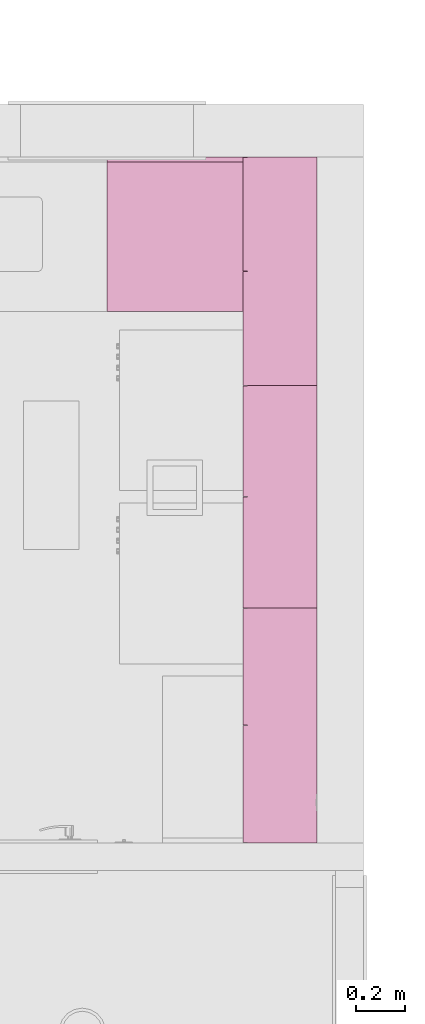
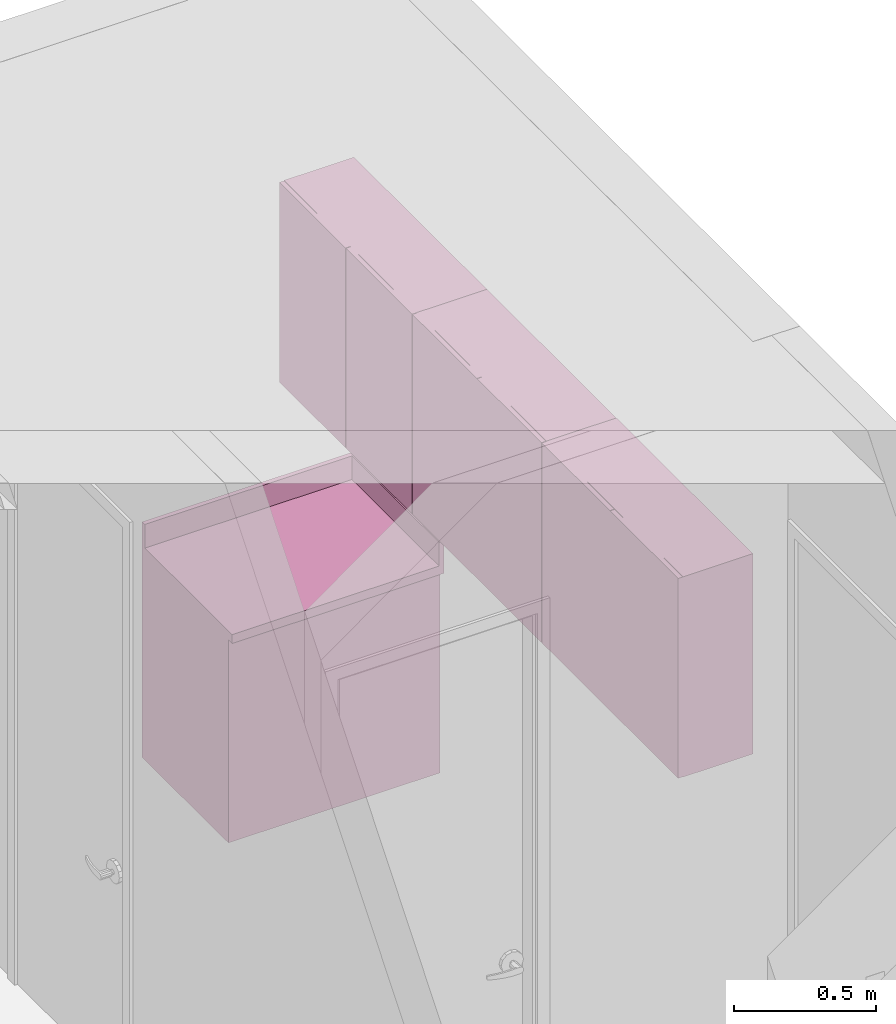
# One storey, part 54 of 103: 4 furnishings.
"""IFC2X3 building model written with IfcOpenShell, lengths in inches."""

import ifcopenshell
import ifcopenshell.guid

model = None  # the IFC model being written
_history = None  # IfcOwnerHistory: only IFC2X3 demands one
_inside = {}  # id of a spatial element -> (the spatial element, [elements in it])
_under = {}  # id of a project, library or spatial element -> (it, [spatial elements below it])
_declared = {}  # id of a project -> (the project, [libraries it declares])
_typed = {}  # id of a type object -> (the type object, [elements of that type])
_made_of = {}  # id of a material, layer set ... -> (it, [elements and type objects made of it])


def new_model(schema):
    """Start an empty IFC model of exactly this schema.

    Asked for "IFC4X3", IfcOpenShell would pick the latest addendum, in which some entities
    have other attributes; the version numbers below select the first issue.
    IFC2X3 requires an IfcOwnerHistory on every rooted entity: one is made here for all.
    """
    global model, _history
    if schema == "IFC4X3":
        model = ifcopenshell.file(schema_version=(4, 3, 0, 0))
    else:
        model = ifcopenshell.file(schema=schema)
    _inside.clear()
    _under.clear()
    _declared.clear()
    _typed.clear()
    _made_of.clear()
    _history = None
    if model.schema == "IFC2X3":
        org = make("IfcOrganization", Name="unknown")
        user = make(
            "IfcPersonAndOrganization",
            ThePerson=make("IfcPerson", FamilyName="unknown"),
            TheOrganization=org,
        )
        app = make(
            "IfcApplication",
            ApplicationDeveloper=org,
            Version="unknown",
            ApplicationFullName="unknown",
            ApplicationIdentifier="unknown",
        )
        _history = make(
            "IfcOwnerHistory",
            OwningUser=user,
            OwningApplication=app,
            ChangeAction="ADDED",
            CreationDate=0,
        )
    return model


def make(cls, **values):
    """One entity of the class cls with the attributes given. An attribute that is None is left unset."""
    return model.create_entity(
        cls, **{name: value for name, value in values.items() if value is not None}
    )


def entity(cls, *values):
    """Any entity or typed value of the class cls, its attributes in the order of the schema. None: left unset."""
    e = model.create_entity(cls)
    for i, value in enumerate(values):
        if value is not None:
            e[i] = value
    return e


def rooted(cls, **values):
    """An entity with a GlobalId (a new one), such as an element, a storey or a relation."""
    return make(cls, GlobalId=ifcopenshell.guid.new(), OwnerHistory=_history, **values)


def si_unit(unit_type, name, prefix=None):
    """IfcSIUnit, for example si_unit("LENGTHUNIT", "METRE", prefix="MILLI")."""
    return make("IfcSIUnit", UnitType=unit_type, Prefix=prefix, Name=name)


def converted_unit(unit_type, name, factor, base, dimensions=None, offset=None):
    """IfcConversionBasedUnit, such as the inch: factor (a typed value) times the base unit."""
    return make(
        "IfcConversionBasedUnit"
        if offset is None
        else "IfcConversionBasedUnitWithOffset",
        ConversionOffset=offset,
        Dimensions=None
        if dimensions is None
        else entity("IfcDimensionalExponents", *dimensions),
        UnitType=unit_type,
        Name=name,
        ConversionFactor=make(
            "IfcMeasureWithUnit", ValueComponent=factor, UnitComponent=base
        ),
    )


def derived_unit(unit_type, elements):
    """IfcDerivedUnit: a product of units, each with its exponent."""
    return make(
        "IfcDerivedUnit",
        Elements=[
            make("IfcDerivedUnitElement", Unit=unit, Exponent=power)
            for unit, power in elements
        ],
        UnitType=unit_type,
    )


def money_unit(currency):
    """IfcMonetaryUnit."""
    return make("IfcMonetaryUnit", Currency=currency)


def assignment(units):
    """IfcUnitAssignment: the units of a project."""
    return None if units is None else make("IfcUnitAssignment", Units=units)


def point(xyz):
    """IfcCartesianPoint."""
    return None if xyz is None else make("IfcCartesianPoint", Coordinates=xyz)


def direction(xyz):
    """IfcDirection."""
    return None if xyz is None else make("IfcDirection", DirectionRatios=xyz)


def frame(location, z_axis=None, x_axis=None):
    """IfcAxis2Placement3D, a coordinate frame: its origin and axes. An axis left out is left unset."""
    return make(
        "IfcAxis2Placement3D",
        Location=point(location),
        Axis=direction(z_axis),
        RefDirection=direction(x_axis),
    )


def origin_with_axes():
    """The frame at (0, 0, 0) with the z axis (0, 0, 1) and the x axis (1, 0, 0) written out."""
    return frame((0.0, 0.0, 0.0), z_axis=(0.0, 0.0, 1.0), x_axis=(1.0, 0.0, 0.0))


def place(relative_to, where):
    """IfcLocalPlacement: puts the frame where relative to a parent placement (None: the world)."""
    return make(
        "IfcLocalPlacement", PlacementRelTo=relative_to, RelativePlacement=where
    )


def context(
    kind, dimensions, precision=None, world=None, true_north=None, identifier=None
):
    """IfcGeometricRepresentationContext, for example the 3D "Model" context."""
    return make(
        "IfcGeometricRepresentationContext",
        ContextIdentifier=identifier,
        ContextType=kind,
        CoordinateSpaceDimension=dimensions,
        Precision=precision,
        WorldCoordinateSystem=world,
        TrueNorth=true_north,
    )


def subcontext(parent, identifier, kind, view, scale=None):
    """IfcGeometricRepresentationSubContext, for example "Body" below "Model"."""
    return make(
        "IfcGeometricRepresentationSubContext",
        ContextIdentifier=identifier,
        ContextType=kind,
        ParentContext=parent,
        TargetScale=scale,
        TargetView=view,
    )


def project(units=None, contexts=None):
    """IfcProject with its units and contexts."""
    return rooted(
        "IfcProject",
        Name="project",
        RepresentationContexts=contexts,
        UnitsInContext=assignment(units),
    )


def spatial(cls, under=None, at=None, **own):
    """A site, building, storey or space (cls), placed at a placement, below another one or the project."""
    s = rooted(cls, ObjectPlacement=at, **own)
    if under is not None:
        _under.setdefault(under.id(), (under, []))[1].append(s)
    return s


def faces_of(points, faces, orient=None, outer=None):
    """IfcFace entities. A face is a list of loops; a loop is a list of indices into points, from 0.

    orient and outer hold one flag for each loop. By default every Orientation is true, the
    first loop of a face is its IfcFaceOuterBound and the others are IfcFaceBound.
    """
    made = []
    for i, loops in enumerate(faces):
        bounds = []
        for j, loop in enumerate(loops):
            is_outer = j == 0 if outer is None else outer[i][j]
            bounds.append(
                make(
                    "IfcFaceOuterBound" if is_outer else "IfcFaceBound",
                    Bound=make("IfcPolyLoop", Polygon=[points[k] for k in loop]),
                    Orientation=True if orient is None else orient[i][j],
                )
            )
        made.append(make("IfcFace", Bounds=bounds))
    return made


def faceted_brep(points, faces, orient=None, outer=None, voids=None):
    """IfcFacetedBrep: a solid bounded by flat faces; with voids (closed shells), ...WithVoids."""
    shared = [point(p) for p in points]
    hull = make("IfcClosedShell", CfsFaces=faces_of(shared, faces, orient, outer))
    if voids is None:
        return make("IfcFacetedBrep", Outer=hull)
    return make(
        "IfcFacetedBrepWithVoids",
        Outer=hull,
        Voids=[
            make(cls, CfsFaces=faces_of(shared, fs, o, b)) for cls, fs, o, b in voids
        ],
    )


def shape(context_of_items, identifier, shape_type, items):
    """IfcShapeRepresentation: the items that make up one representation, for example the "Body"."""
    return make(
        "IfcShapeRepresentation",
        ContextOfItems=context_of_items,
        RepresentationIdentifier=identifier,
        RepresentationType=shape_type,
        Items=items,
    )


def made_of(thing, what):
    """Note that an element or type object is made of a material, layer set ...; save() writes the relation."""
    if what is not None:
        _made_of.setdefault(what.id(), (what, []))[1].append(thing)
    return thing


def type_object(cls, material=None, **own):
    """A type object (cls), such as IfcWallType, which elements share."""
    return made_of(rooted(cls, **own), material)


def element(
    cls,
    number,
    at=None,
    inside=None,
    cuts=None,
    type_object=None,
    material=None,
    context=None,
    identifier="Body",
    shape_type=None,
    held_by="IfcProductDefinitionShape",
    body=None,
    shapes=None,
    **own,
):
    """One element of the class cls, such as IfcWall. Its Tag is "e" and its number.

    at: its placement. inside: the storey or other place that contains it. cuts: it is an
    opening in that element (IfcRelVoidsElement). A single representation is given by context,
    identifier, shape_type and body (its items); several are given by shapes. held_by: the class
    of the entity that holds the representations. save() writes the other relations.
    """
    e = rooted(cls, Tag="e%d" % number, ObjectPlacement=at, **own)
    if body is not None:
        shapes = [shape(context, identifier, shape_type, body)]
    if shapes is not None:
        e.Representation = make(held_by, Representations=shapes)
    if inside is not None:
        _inside.setdefault(inside.id(), (inside, []))[1].append(e)
    if cuts is not None:
        rooted(
            "IfcRelVoidsElement", RelatingBuildingElement=cuts, RelatedOpeningElement=e
        )
    if type_object is not None:
        _typed.setdefault(type_object.id(), (type_object, []))[1].append(e)
    return made_of(e, material)


def aggregate(whole, parts):
    """IfcRelAggregates: a whole, such as a stair, and the parts it consists of."""
    return rooted("IfcRelAggregates", RelatingObject=whole, RelatedObjects=parts)


def save(model, path):
    """Write the relations noted so far, then the file.

    IfcRelAggregates (storeys below a building ...), IfcRelContainedInSpatialStructure (elements
    in a storey), IfcRelDefinesByType, IfcRelAssociatesMaterial and IfcRelDeclares: one each for
    every whole, place, type object, material and project.
    """
    for whole, parts in _under.values():
        aggregate(whole, parts)
    for where, things in _inside.values():
        rooted(
            "IfcRelContainedInSpatialStructure",
            RelatedElements=things,
            RelatingStructure=where,
        )
    for kind, things in _typed.values():
        rooted("IfcRelDefinesByType", RelatedObjects=things, RelatingType=kind)
    for what, things in _made_of.values():
        rooted("IfcRelAssociatesMaterial", RelatedObjects=things, RelatingMaterial=what)
    for by, libraries in _declared.values():
        rooted("IfcRelDeclares", RelatingContext=by, RelatedDefinitions=libraries)
    model.write(path)


model = new_model("IFC2X3")

# Units and contexts
model_context = context("Model", 3, precision=0.00039370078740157, world=origin_with_axes(), true_north=direction((0.0, 1.0)))
plan_context = context("Plan", 3, precision=0.00039370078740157, world=origin_with_axes(), true_north=direction((0.0, 1.0)))
body_context = subcontext(model_context, "Body", "Model", "MODEL_VIEW")
ifc_project = project(units=[converted_unit("LENGTHUNIT", "INCH", entity("IfcPositiveLengthMeasure", 0.0254), si_unit("LENGTHUNIT", "METRE"), dimensions=[1, 0, 0, 0, 0, 0, 0]), converted_unit("AREAUNIT", "SQUARE_FOOT", entity("IfcPositiveLengthMeasure", 0.09290304), si_unit("AREAUNIT", "SQUARE_METRE"), dimensions=[2, 0, 0, 0, 0, 0, 0]), si_unit("PLANEANGLEUNIT", "RADIAN"), si_unit("SOLIDANGLEUNIT", "STERADIAN"), money_unit("USD"), converted_unit("TIMEUNIT", "Year", entity("IfcTimeMeasure", 31557600.0), si_unit("TIMEUNIT", "SECOND"), dimensions=[0, 0, 1, 0, 0, 0, 0]), si_unit("MASSUNIT", "GRAM", prefix="KILO"), si_unit("THERMODYNAMICTEMPERATUREUNIT", "DEGREE_CELSIUS"), si_unit("LUMINOUSINTENSITYUNIT", "LUMEN"), si_unit("ENERGYUNIT", "JOULE", prefix="MEGA"), derived_unit("SPECIFICHEATCAPACITYUNIT", [(si_unit("ENERGYUNIT", "JOULE"), 1), (si_unit("MASSUNIT", "GRAM", prefix="KILO"), -1), (si_unit("THERMODYNAMICTEMPERATUREUNIT", "KELVIN"), -1)])], contexts=[model_context, plan_context])

# Site, building, storey
site_placement = place(None, origin_with_axes())
site = spatial("IfcSite", under=ifc_project, at=site_placement, Name="Site", CompositionType="ELEMENT")
building_placement = place(site_placement, origin_with_axes())
building = spatial("IfcBuilding", under=site, at=building_placement, Name="Building", CompositionType="ELEMENT")
storey_placement = place(building_placement, frame((0.0, 0.0, 127.9999999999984), z_axis=(0.0, 0.0, 1.0), x_axis=(1.0, 0.0, 0.0)))
storey = spatial("IfcBuildingStorey", under=building, at=storey_placement, Name="Second Floor", CompositionType="ELEMENT", Elevation=128.0)

# Furnishings
furniture_type_1 = type_object("IfcFurnitureType", Name="Base Cabinet Block", AssemblyPlace="NOTDEFINED")
furnishing_1_placement = place(storey_placement, frame((203.0000135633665, 568.0000000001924, 0.0), z_axis=(0.0, 0.0, 1.0), x_axis=(1.0, 0.0, 0.0)))
element("IfcFurnishingElement", 1, at=furnishing_1_placement, inside=storey, type_object=furniture_type_1, Name="FU - 007", context=body_context, shape_type="Brep", body=[
    faceted_brep([(0.0, -24.9999999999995, 34.49999999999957), (34.00000000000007, -24.9999999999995, 34.49999999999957), (34.00000000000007, -24.9999999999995, 35.99999999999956), (0.0, -24.9999999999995, 35.99999999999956), (0.0, 0.0, 34.49999999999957), (34.00000000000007, 0.0, 34.49999999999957), (34.00000000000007, 0.0, 35.99999999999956), (0.0, 0.0, 35.99999999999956)], [[[0, 1, 2, 3]], [[0, 4, 5, 1]], [[1, 5, 6, 2]], [[3, 2, 6, 7]], [[4, 0, 3, 7]], [[5, 4, 7, 6]]]),
    faceted_brep([(34.00000000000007, -24.9999999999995, 35.99999999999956), (33.25000000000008, -24.9999999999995, 35.99999999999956), (33.25000000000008, -0.7499999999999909, 35.99999999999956), (34.00000000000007, 0.0, 35.99999999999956), (34.00000000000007, -24.9999999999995, 39.99999999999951), (33.25000000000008, -24.9999999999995, 39.99999999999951), (33.25000000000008, -0.7499999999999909, 39.99999999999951), (34.00000000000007, 0.0, 39.99999999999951)], [[[0, 1, 2, 3]], [[0, 4, 5, 1]], [[1, 5, 6, 2]], [[3, 2, 6, 7]], [[4, 0, 3, 7]], [[5, 4, 7, 6]]]),
    faceted_brep([(34.00000000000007, 0.0, 35.99999999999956), (33.25000000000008, -0.7499999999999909, 35.99999999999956), (0.0, -0.7499999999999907, 35.99999999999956), (0.0, 0.0, 35.99999999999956), (34.00000000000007, 0.0, 39.99999999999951), (33.25000000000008, -0.7499999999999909, 39.99999999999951), (0.0, -0.7499999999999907, 39.99999999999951), (0.0, 0.0, 39.99999999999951)], [[[0, 1, 2, 3]], [[0, 4, 5, 1]], [[1, 5, 6, 2]], [[3, 2, 6, 7]], [[4, 0, 3, 7]], [[5, 4, 7, 6]]]),
    faceted_brep([(0.039370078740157, -23.24999999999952, 0.039370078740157), (33.96062992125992, -23.24999999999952, 0.039370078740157), (33.96062992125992, -23.99999999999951, 0.03937007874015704), (0.039370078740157, -23.99999999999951, 0.03937007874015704), (0.039370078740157, -23.24999999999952, 34.46062992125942), (33.96062992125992, -23.24999999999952, 34.46062992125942), (33.96062992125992, -23.99999999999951, 34.46062992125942), (0.039370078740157, -23.99999999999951, 34.46062992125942)], [[[0, 1, 2, 3]], [[0, 4, 5, 1]], [[1, 5, 6, 2]], [[3, 2, 6, 7]], [[4, 0, 3, 7]], [[5, 4, 7, 6]]]),
    faceted_brep([(0.7499999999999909, -23.24999999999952, 0.0), (33.25000000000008, -23.24999999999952, 0.0), (33.25000000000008, -23.24999999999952, 0.7499999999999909), (0.7499999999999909, -23.24999999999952, 0.7499999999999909), (0.7499999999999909, 0.0, 0.0), (33.25000000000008, 0.0, 0.0), (33.25000000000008, 0.0, 0.7499999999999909), (0.7499999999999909, 0.0, 0.7499999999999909)], [[[0, 1, 2, 3]], [[0, 4, 5, 1]], [[1, 5, 6, 2]], [[3, 2, 6, 7]], [[4, 0, 3, 7]], [[5, 4, 7, 6]]]),
    faceted_brep([(0.7499999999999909, -23.24999999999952, 33.74999999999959), (0.7499999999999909, -20.8877952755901, 33.74999999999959), (33.25000000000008, -20.8877952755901, 33.74999999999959), (33.25000000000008, -23.24999999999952, 33.74999999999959), (0.7499999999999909, -23.24999999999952, 34.49999999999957), (0.7499999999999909, -20.8877952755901, 34.49999999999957), (33.25000000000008, -20.8877952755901, 34.49999999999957), (33.25000000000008, -23.24999999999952, 34.49999999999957)], [[[0, 1, 2, 3]], [[0, 4, 5, 1]], [[1, 5, 6, 2]], [[3, 2, 6, 7]], [[4, 0, 3, 7]], [[5, 4, 7, 6]]]),
    faceted_brep([(33.25000000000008, 0.0, 33.74999999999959), (33.25000000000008, -2.36220472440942, 33.74999999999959), (0.7499999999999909, -2.36220472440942, 33.74999999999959), (0.7499999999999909, 0.0, 33.74999999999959), (33.25000000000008, 0.0, 34.49999999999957), (33.25000000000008, -2.36220472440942, 34.49999999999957), (0.7499999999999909, -2.36220472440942, 34.49999999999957), (0.7499999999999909, 0.0, 34.49999999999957)], [[[0, 1, 2, 3]], [[0, 4, 5, 1]], [[1, 5, 6, 2]], [[3, 2, 6, 7]], [[4, 0, 3, 7]], [[5, 4, 7, 6]]]),
    faceted_brep([(0.0, 0.0, 0.0), (0.0, -23.24999999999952, 0.0), (0.0, -23.24999999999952, 34.49999999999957), (0.0, 0.0, 34.49999999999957), (0.7499999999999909, 0.0, 0.0), (0.7499999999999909, -23.24999999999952, 0.0), (0.7499999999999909, -23.24999999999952, 34.49999999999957), (0.7499999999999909, 0.0, 34.49999999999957)], [[[0, 1, 2, 3]], [[0, 4, 5, 1]], [[1, 5, 6, 2]], [[3, 2, 6, 7]], [[4, 0, 3, 7]], [[5, 4, 7, 6]]]),
    faceted_brep([(34.00000000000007, -23.24999999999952, 0.0), (34.00000000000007, 0.0, 0.0), (34.00000000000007, 0.0, 34.49999999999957), (34.00000000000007, -23.24999999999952, 34.49999999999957), (33.25000000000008, -23.24999999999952, 0.0), (33.25000000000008, 0.0, 0.0), (33.25000000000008, 0.0, 34.49999999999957), (33.25000000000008, -23.24999999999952, 34.49999999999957)], [[[0, 1, 2, 3]], [[0, 4, 5, 1]], [[1, 5, 6, 2]], [[3, 2, 6, 7]], [[4, 0, 3, 7]], [[5, 4, 7, 6]]]),
    faceted_brep([(33.25000000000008, -0.3749999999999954, 0.7499999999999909), (0.7499999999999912, -0.3749999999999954, 0.7499999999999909), (0.7499999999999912, -0.3749999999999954, 33.74999999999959), (33.25000000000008, -0.3749999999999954, 33.74999999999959), (33.25000000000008, -0.7499999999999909, 0.7499999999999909), (0.7499999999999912, -0.7499999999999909, 0.7499999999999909), (0.7499999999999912, -0.7499999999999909, 33.74999999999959), (33.25000000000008, -0.7499999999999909, 33.74999999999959)], [[[0, 1, 2, 3]], [[0, 4, 5, 1]], [[1, 5, 6, 2]], [[3, 2, 6, 7]], [[4, 0, 3, 7]], [[5, 4, 7, 6]]]),
])
furniture_type_2 = type_object("IfcFurnitureType", Name="Wall Cabinet Block", AssemblyPlace="NOTDEFINED")
furnishing_2_placement = place(storey_placement, frame((236.9999999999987, 456.9999999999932, -3.999999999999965), z_axis=(0.0, 0.0, 1.0), x_axis=(0.0, -1.0, 0.0)))
element("IfcFurnishingElement", 2, at=furnishing_2_placement, inside=storey, type_object=furniture_type_2, Name="FU - 008", context=body_context, shape_type="Brep", body=[
    faceted_brep([(-0.7499999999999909, -11.24999999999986, 76.62499999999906), (-0.7499999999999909, -11.24999999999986, 77.37499999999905), (-37.24999999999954, -11.24999999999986, 77.37499999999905), (-37.24999999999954, -11.24999999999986, 76.62499999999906), (-0.7499999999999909, -0.7499999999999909, 76.62499999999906), (-0.7499999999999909, -0.7499999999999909, 77.37499999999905), (-37.24999999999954, -0.7499999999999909, 77.37499999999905), (-37.24999999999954, -0.7499999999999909, 76.62499999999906)], [[[0, 1, 2, 3]], [[4, 5, 1, 0]], [[1, 5, 6, 2]], [[3, 2, 6, 7]], [[0, 3, 7, 4]], [[7, 6, 5, 4]]]),
    faceted_brep([(-0.039370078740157, -11.24999999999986, 60.03937007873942), (-0.039370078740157, -11.99999999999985, 60.03937007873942), (-18.96062992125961, -11.99999999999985, 60.03937007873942), (-18.96062992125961, -11.24999999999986, 60.03937007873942), (-0.039370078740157, -11.24999999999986, 93.96062992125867), (-0.039370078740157, -11.99999999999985, 93.96062992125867), (-18.96062992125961, -11.99999999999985, 93.96062992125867), (-18.96062992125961, -11.24999999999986, 93.96062992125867)], [[[0, 1, 2, 3]], [[4, 5, 1, 0]], [[1, 5, 6, 2]], [[3, 2, 6, 7]], [[0, 3, 7, 4]], [[7, 6, 5, 4]]]),
    faceted_brep([(-37.96062992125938, -11.24999999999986, 60.03937007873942), (-19.03937007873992, -11.24999999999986, 60.03937007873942), (-19.03937007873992, -11.99999999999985, 60.03937007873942), (-37.96062992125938, -11.99999999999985, 60.03937007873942), (-37.96062992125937, -11.24999999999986, 93.96062992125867), (-19.03937007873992, -11.24999999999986, 93.96062992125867), (-19.03937007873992, -11.99999999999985, 93.96062992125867), (-37.96062992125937, -11.99999999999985, 93.96062992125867)], [[[0, 1, 2, 3]], [[0, 4, 5, 1]], [[1, 5, 6, 2]], [[3, 2, 6, 7]], [[4, 0, 3, 7]], [[5, 4, 7, 6]]]),
    faceted_brep([(-0.7499999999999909, -11.24999999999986, 59.99999999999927), (-0.7499999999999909, -11.24999999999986, 60.74999999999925), (-37.24999999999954, -11.24999999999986, 60.74999999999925), (-37.24999999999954, -11.24999999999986, 59.99999999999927), (-0.7499999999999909, 0.0, 59.99999999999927), (-0.7499999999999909, 0.0, 60.74999999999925), (-37.24999999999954, 0.0, 60.74999999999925), (-37.24999999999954, 0.0, 59.99999999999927)], [[[0, 1, 2, 3]], [[4, 5, 1, 0]], [[1, 5, 6, 2]], [[3, 2, 6, 7]], [[0, 3, 7, 4]], [[7, 6, 5, 4]]]),
    faceted_brep([(-0.7499999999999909, -11.24999999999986, 93.24999999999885), (-0.7499999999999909, -11.24999999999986, 93.99999999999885), (-37.24999999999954, -11.24999999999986, 93.99999999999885), (-37.24999999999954, -11.24999999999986, 93.24999999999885), (-0.7499999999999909, 0.0, 93.24999999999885), (-0.7499999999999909, 0.0, 93.99999999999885), (-37.24999999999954, 0.0, 93.99999999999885), (-37.24999999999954, 0.0, 93.24999999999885)], [[[0, 1, 2, 3]], [[4, 5, 1, 0]], [[1, 5, 6, 2]], [[3, 2, 6, 7]], [[0, 3, 7, 4]], [[7, 6, 5, 4]]]),
    faceted_brep([(0.0, 0.0, 59.99999999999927), (0.0, 0.0, 93.99999999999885), (0.0, -11.24999999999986, 93.99999999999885), (0.0, -11.24999999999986, 59.99999999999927), (-0.7499999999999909, 0.0, 59.99999999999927), (-0.7499999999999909, 0.0, 93.99999999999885), (-0.7499999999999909, -11.24999999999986, 93.99999999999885), (-0.7499999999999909, -11.24999999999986, 59.99999999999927)], [[[0, 1, 2, 3]], [[4, 5, 1, 0]], [[1, 5, 6, 2]], [[3, 2, 6, 7]], [[0, 3, 7, 4]], [[7, 6, 5, 4]]]),
    faceted_brep([(-37.99999999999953, -11.24999999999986, 59.99999999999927), (-37.99999999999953, -11.24999999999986, 93.99999999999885), (-37.99999999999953, 0.0, 93.99999999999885), (-37.99999999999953, 0.0, 59.99999999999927), (-37.24999999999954, -11.24999999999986, 59.99999999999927), (-37.24999999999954, -11.24999999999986, 93.99999999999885), (-37.24999999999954, 0.0, 93.99999999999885), (-37.24999999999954, 0.0, 59.99999999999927)], [[[0, 1, 2, 3]], [[4, 5, 1, 0]], [[1, 5, 6, 2]], [[3, 2, 6, 7]], [[0, 3, 7, 4]], [[7, 6, 5, 4]]]),
    faceted_brep([(-37.24999999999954, -0.3749999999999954, 60.74999999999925), (-37.24999999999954, -0.3749999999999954, 93.24999999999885), (-0.7499999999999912, -0.3749999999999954, 93.24999999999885), (-0.7499999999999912, -0.3749999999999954, 60.74999999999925), (-37.24999999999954, -0.7499999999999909, 60.74999999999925), (-37.24999999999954, -0.7499999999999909, 93.24999999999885), (-0.7499999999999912, -0.7499999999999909, 93.24999999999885), (-0.7499999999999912, -0.7499999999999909, 60.74999999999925)], [[[0, 1, 2, 3]], [[4, 5, 1, 0]], [[1, 5, 6, 2]], [[3, 2, 6, 7]], [[0, 3, 7, 4]], [[7, 6, 5, 4]]]),
])
furnishing_3_placement = place(storey_placement, frame((236.9999999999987, 530.9999999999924, -3.999999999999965), z_axis=(0.0, 0.0, 1.0), x_axis=(0.0, -1.0, 0.0)))
element("IfcFurnishingElement", 3, at=furnishing_3_placement, inside=storey, type_object=furniture_type_2, Name="FU - 008", context=body_context, shape_type="Brep", body=[
    faceted_brep([(-0.7499999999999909, -11.24999999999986, 76.62499999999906), (-0.7499999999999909, -11.24999999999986, 77.37499999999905), (-36.25000000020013, -11.24999999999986, 77.37499999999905), (-36.25000000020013, -11.24999999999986, 76.62499999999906), (-0.7499999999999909, -0.7499999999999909, 76.62499999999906), (-0.7499999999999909, -0.7499999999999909, 77.37499999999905), (-36.25000000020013, -0.7499999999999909, 77.37499999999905), (-36.25000000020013, -0.7499999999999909, 76.62499999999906)], [[[0, 1, 2, 3]], [[4, 5, 1, 0]], [[1, 5, 6, 2]], [[3, 2, 6, 7]], [[0, 3, 7, 4]], [[7, 6, 5, 4]]]),
    faceted_brep([(-0.039370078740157, -11.24999999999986, 60.03937007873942), (-0.039370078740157, -11.99999999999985, 60.03937007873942), (-18.4606299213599, -11.99999999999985, 60.03937007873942), (-18.4606299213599, -11.24999999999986, 60.03937007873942), (-0.039370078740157, -11.24999999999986, 93.96062992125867), (-0.039370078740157, -11.99999999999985, 93.96062992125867), (-18.4606299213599, -11.99999999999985, 93.96062992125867), (-18.4606299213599, -11.24999999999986, 93.96062992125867)], [[[0, 1, 2, 3]], [[4, 5, 1, 0]], [[1, 5, 6, 2]], [[3, 2, 6, 7]], [[0, 3, 7, 4]], [[7, 6, 5, 4]]]),
    faceted_brep([(-36.96062992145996, -11.24999999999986, 60.03937007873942), (-18.53937007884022, -11.24999999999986, 60.03937007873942), (-18.53937007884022, -11.99999999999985, 60.03937007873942), (-36.96062992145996, -11.99999999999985, 60.03937007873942), (-36.96062992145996, -11.24999999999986, 93.96062992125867), (-18.53937007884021, -11.24999999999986, 93.96062992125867), (-18.53937007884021, -11.99999999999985, 93.96062992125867), (-36.96062992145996, -11.99999999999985, 93.96062992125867)], [[[0, 1, 2, 3]], [[0, 4, 5, 1]], [[1, 5, 6, 2]], [[3, 2, 6, 7]], [[4, 0, 3, 7]], [[5, 4, 7, 6]]]),
    faceted_brep([(-0.7499999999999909, -11.24999999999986, 59.99999999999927), (-0.7499999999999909, -11.24999999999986, 60.74999999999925), (-36.25000000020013, -11.24999999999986, 60.74999999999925), (-36.25000000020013, -11.24999999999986, 59.99999999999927), (-0.7499999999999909, 0.0, 59.99999999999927), (-0.7499999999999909, 0.0, 60.74999999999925), (-36.25000000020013, 0.0, 60.74999999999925), (-36.25000000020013, 0.0, 59.99999999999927)], [[[0, 1, 2, 3]], [[4, 5, 1, 0]], [[1, 5, 6, 2]], [[3, 2, 6, 7]], [[0, 3, 7, 4]], [[7, 6, 5, 4]]]),
    faceted_brep([(-0.7499999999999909, -11.24999999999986, 93.24999999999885), (-0.7499999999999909, -11.24999999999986, 93.99999999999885), (-36.25000000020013, -11.24999999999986, 93.99999999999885), (-36.25000000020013, -11.24999999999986, 93.24999999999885), (-0.7499999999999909, 0.0, 93.24999999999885), (-0.7499999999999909, 0.0, 93.99999999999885), (-36.25000000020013, 0.0, 93.99999999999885), (-36.25000000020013, 0.0, 93.24999999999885)], [[[0, 1, 2, 3]], [[4, 5, 1, 0]], [[1, 5, 6, 2]], [[3, 2, 6, 7]], [[0, 3, 7, 4]], [[7, 6, 5, 4]]]),
    faceted_brep([(0.0, 0.0, 59.99999999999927), (0.0, 0.0, 93.99999999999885), (0.0, -11.24999999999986, 93.99999999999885), (0.0, -11.24999999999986, 59.99999999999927), (-0.7499999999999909, 0.0, 59.99999999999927), (-0.7499999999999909, 0.0, 93.99999999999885), (-0.7499999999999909, -11.24999999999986, 93.99999999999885), (-0.7499999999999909, -11.24999999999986, 59.99999999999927)], [[[0, 1, 2, 3]], [[4, 5, 1, 0]], [[1, 5, 6, 2]], [[3, 2, 6, 7]], [[0, 3, 7, 4]], [[7, 6, 5, 4]]]),
    faceted_brep([(-37.00000000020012, -11.24999999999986, 59.99999999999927), (-37.00000000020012, -11.24999999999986, 93.99999999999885), (-37.00000000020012, 0.0, 93.99999999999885), (-37.00000000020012, 0.0, 59.99999999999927), (-36.25000000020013, -11.24999999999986, 59.99999999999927), (-36.25000000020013, -11.24999999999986, 93.99999999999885), (-36.25000000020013, 0.0, 93.99999999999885), (-36.25000000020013, 0.0, 59.99999999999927)], [[[0, 1, 2, 3]], [[4, 5, 1, 0]], [[1, 5, 6, 2]], [[3, 2, 6, 7]], [[0, 3, 7, 4]], [[7, 6, 5, 4]]]),
    faceted_brep([(-36.25000000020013, -0.3749999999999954, 60.74999999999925), (-36.25000000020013, -0.3749999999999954, 93.24999999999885), (-0.7499999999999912, -0.3749999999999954, 93.24999999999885), (-0.7499999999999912, -0.3749999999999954, 60.74999999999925), (-36.25000000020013, -0.7499999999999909, 60.74999999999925), (-36.25000000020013, -0.7499999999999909, 93.24999999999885), (-0.7499999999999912, -0.7499999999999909, 93.24999999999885), (-0.7499999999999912, -0.7499999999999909, 60.74999999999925)], [[[0, 1, 2, 3]], [[4, 5, 1, 0]], [[1, 5, 6, 2]], [[3, 2, 6, 7]], [[0, 3, 7, 4]], [[7, 6, 5, 4]]]),
])
furnishing_4_placement = place(storey_placement, frame((236.9999999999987, 494.9999999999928, -3.999999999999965), z_axis=(0.0, 0.0, 1.0), x_axis=(0.0, -1.0, 0.0)))
element("IfcFurnishingElement", 4, at=furnishing_4_placement, inside=storey, type_object=furniture_type_2, Name="FU - 008", context=body_context, shape_type="Brep", body=[
    faceted_brep([(-0.7499999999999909, -11.24999999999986, 76.62499999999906), (-0.7499999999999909, -11.24999999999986, 77.37499999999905), (-35.24999999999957, -11.24999999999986, 77.37499999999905), (-35.24999999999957, -11.24999999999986, 76.62499999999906), (-0.7499999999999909, -0.7499999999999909, 76.62499999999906), (-0.7499999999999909, -0.7499999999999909, 77.37499999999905), (-35.24999999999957, -0.7499999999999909, 77.37499999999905), (-35.24999999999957, -0.7499999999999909, 76.62499999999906)], [[[0, 1, 2, 3]], [[4, 5, 1, 0]], [[1, 5, 6, 2]], [[3, 2, 6, 7]], [[0, 3, 7, 4]], [[7, 6, 5, 4]]]),
    faceted_brep([(-0.039370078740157, -11.24999999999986, 60.03937007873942), (-0.039370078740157, -11.99999999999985, 60.03937007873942), (-17.96062992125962, -11.99999999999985, 60.03937007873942), (-17.96062992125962, -11.24999999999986, 60.03937007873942), (-0.039370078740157, -11.24999999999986, 93.96062992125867), (-0.039370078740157, -11.99999999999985, 93.96062992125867), (-17.96062992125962, -11.99999999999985, 93.96062992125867), (-17.96062992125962, -11.24999999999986, 93.96062992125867)], [[[0, 1, 2, 3]], [[4, 5, 1, 0]], [[1, 5, 6, 2]], [[3, 2, 6, 7]], [[0, 3, 7, 4]], [[7, 6, 5, 4]]]),
    faceted_brep([(-35.9606299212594, -11.24999999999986, 60.03937007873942), (-18.03937007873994, -11.24999999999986, 60.03937007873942), (-18.03937007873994, -11.99999999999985, 60.03937007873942), (-35.9606299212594, -11.99999999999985, 60.03937007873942), (-35.9606299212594, -11.24999999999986, 93.96062992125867), (-18.03937007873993, -11.24999999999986, 93.96062992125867), (-18.03937007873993, -11.99999999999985, 93.96062992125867), (-35.9606299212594, -11.99999999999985, 93.96062992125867)], [[[0, 1, 2, 3]], [[0, 4, 5, 1]], [[1, 5, 6, 2]], [[3, 2, 6, 7]], [[4, 0, 3, 7]], [[5, 4, 7, 6]]]),
    faceted_brep([(-0.7499999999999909, -11.24999999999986, 59.99999999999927), (-0.7499999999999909, -11.24999999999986, 60.74999999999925), (-35.24999999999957, -11.24999999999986, 60.74999999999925), (-35.24999999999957, -11.24999999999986, 59.99999999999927), (-0.7499999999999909, 0.0, 59.99999999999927), (-0.7499999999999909, 0.0, 60.74999999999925), (-35.24999999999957, 0.0, 60.74999999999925), (-35.24999999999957, 0.0, 59.99999999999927)], [[[0, 1, 2, 3]], [[4, 5, 1, 0]], [[1, 5, 6, 2]], [[3, 2, 6, 7]], [[0, 3, 7, 4]], [[7, 6, 5, 4]]]),
    faceted_brep([(-0.7499999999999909, -11.24999999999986, 93.24999999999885), (-0.7499999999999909, -11.24999999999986, 93.99999999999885), (-35.24999999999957, -11.24999999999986, 93.99999999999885), (-35.24999999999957, -11.24999999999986, 93.24999999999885), (-0.7499999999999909, 0.0, 93.24999999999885), (-0.7499999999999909, 0.0, 93.99999999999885), (-35.24999999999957, 0.0, 93.99999999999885), (-35.24999999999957, 0.0, 93.24999999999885)], [[[0, 1, 2, 3]], [[4, 5, 1, 0]], [[1, 5, 6, 2]], [[3, 2, 6, 7]], [[0, 3, 7, 4]], [[7, 6, 5, 4]]]),
    faceted_brep([(0.0, 0.0, 59.99999999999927), (0.0, 0.0, 93.99999999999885), (0.0, -11.24999999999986, 93.99999999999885), (0.0, -11.24999999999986, 59.99999999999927), (-0.7499999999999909, 0.0, 59.99999999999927), (-0.7499999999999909, 0.0, 93.99999999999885), (-0.7499999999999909, -11.24999999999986, 93.99999999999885), (-0.7499999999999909, -11.24999999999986, 59.99999999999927)], [[[0, 1, 2, 3]], [[4, 5, 1, 0]], [[1, 5, 6, 2]], [[3, 2, 6, 7]], [[0, 3, 7, 4]], [[7, 6, 5, 4]]]),
    faceted_brep([(-35.99999999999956, -11.24999999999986, 59.99999999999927), (-35.99999999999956, -11.24999999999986, 93.99999999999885), (-35.99999999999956, 0.0, 93.99999999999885), (-35.99999999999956, 0.0, 59.99999999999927), (-35.24999999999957, -11.24999999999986, 59.99999999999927), (-35.24999999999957, -11.24999999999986, 93.99999999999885), (-35.24999999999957, 0.0, 93.99999999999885), (-35.24999999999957, 0.0, 59.99999999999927)], [[[0, 1, 2, 3]], [[4, 5, 1, 0]], [[1, 5, 6, 2]], [[3, 2, 6, 7]], [[0, 3, 7, 4]], [[7, 6, 5, 4]]]),
    faceted_brep([(-35.24999999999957, -0.3749999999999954, 60.74999999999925), (-35.24999999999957, -0.3749999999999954, 93.24999999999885), (-0.7499999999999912, -0.3749999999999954, 93.24999999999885), (-0.7499999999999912, -0.3749999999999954, 60.74999999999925), (-35.24999999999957, -0.7499999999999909, 60.74999999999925), (-35.24999999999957, -0.7499999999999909, 93.24999999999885), (-0.7499999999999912, -0.7499999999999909, 93.24999999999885), (-0.7499999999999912, -0.7499999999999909, 60.74999999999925)], [[[0, 1, 2, 3]], [[4, 5, 1, 0]], [[1, 5, 6, 2]], [[3, 2, 6, 7]], [[0, 3, 7, 4]], [[7, 6, 5, 4]]]),
])

save(model, "model.ifc")
